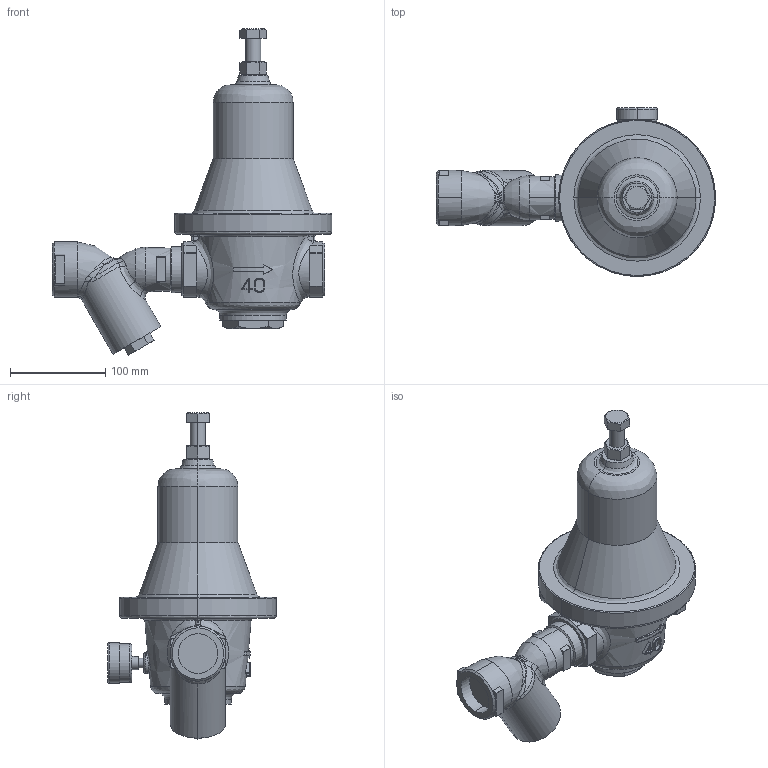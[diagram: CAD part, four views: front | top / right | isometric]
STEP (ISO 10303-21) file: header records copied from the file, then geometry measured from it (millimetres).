
FILE_DESCRIPTION( (''), '2;1');
FILE_NAME ('PC1276.1724.GD-24GS 40A_17238.stp','2025-12-10T13:18:47',(''),(''),'spGate 20.6.3 (****-****-****-****)','','');
FILE_SCHEMA (('AUTOMOTIVE_DESIGN'));
Length unit declared in the file: millimetre
Products named in the file (3): Assembly; SY-24　40A　キャップ; GD-24　40A
Assembly tree (2 placements, depth 2):
  Assembly
    SY-24　40A　キャップ
    GD-24　40A
Bounding box: 293.5 x 177.53 x 342.97 mm (x, y, z)
Volume: 2736780.6 mm3; surface area: 172329.8 mm2
Topology: 2 solids, 2 shells, 503 faces, 1218 edges, 706 vertices
Faces by surface type: bspline 181, cylinder 154, plane 131, sphere 37
Entity records: 31283 total; most frequent: CARTESIAN_POINT 11532, ORIENTED_EDGE 2354, DIRECTION 1838, COLOUR_RGB 1682, PRESENTATION_STYLE_ASSIGNMENT 1682, STYLED_ITEM 1682, EDGE_CURVE 1177, DRAUGHTING_PRE_DEFINED_CURVE_FONT 1177
